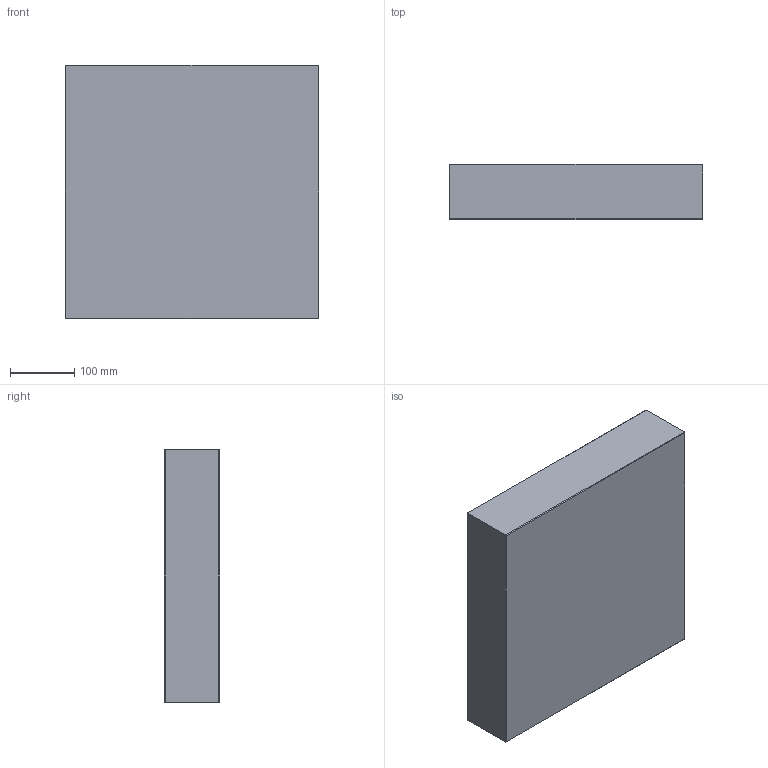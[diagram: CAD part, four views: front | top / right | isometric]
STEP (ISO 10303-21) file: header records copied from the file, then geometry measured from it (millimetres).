
FILE_DESCRIPTION (( 'STEP AP214' ), '1' );
FILE_NAME ('PC-P-396x396x86.STEP', '2020-04-01T10:32:47', ( 'August' ), ( '' ), 'SwSTEP 2.0', 'SolidWorks 2018', '' );
FILE_SCHEMA (( 'AUTOMOTIVE_DESIGN' ));
Length unit declared in the file: millimetre
Products named in the file (1): PC-P-396x396x86
Bounding box: 396 x 86 x 396 mm (x, y, z)
Volume: 13484425.3 mm3; surface area: 447795.7 mm2
Topology: 1 solids, 1 shells, 26 faces, 48 edges, 24 vertices
Faces by surface type: plane 26
Entity records: 634 total; most frequent: DIRECTION 102, CARTESIAN_POINT 99, ORIENTED_EDGE 96, LINE 48, VECTOR 48, EDGE_CURVE 48, AXIS2_PLACEMENT_3D 27, ADVANCED_FACE 26
